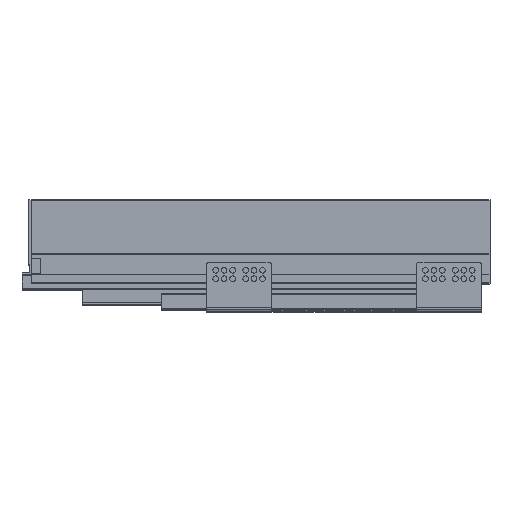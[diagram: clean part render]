
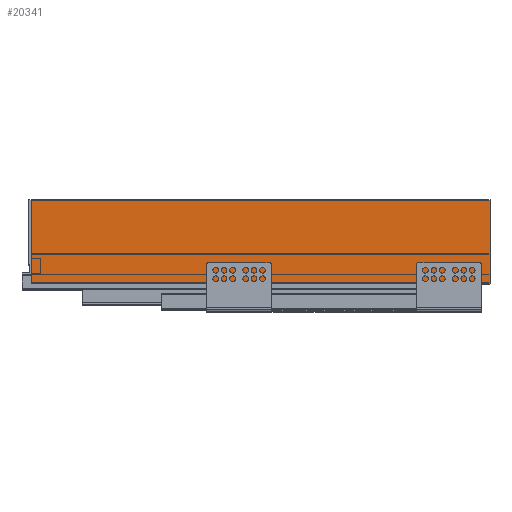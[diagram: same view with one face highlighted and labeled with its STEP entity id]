
A CAD part, top view. The second image highlights one B-rep face of the part: STEP entity #20341.
In plain terms, the highlighted planar face has unit normal (0, 0, 1).
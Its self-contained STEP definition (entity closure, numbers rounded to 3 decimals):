
#499=PLANE('',#21558);
#1352=FACE_OUTER_BOUND('',#2469,.T.);
#2469=EDGE_LOOP('',(#14259,#14260,#14261,#14262));
#3979=LINE('',#29291,#6308);
#3981=LINE('',#29295,#6310);
#3982=LINE('',#29297,#6311);
#3983=LINE('',#29298,#6312);
#6308=VECTOR('',#23625,10.);
#6310=VECTOR('',#23629,10.);
#6311=VECTOR('',#23630,10.);
#6312=VECTOR('',#23631,10.);
#9106=VERTEX_POINT('',#29288);
#9107=VERTEX_POINT('',#29290);
#9108=VERTEX_POINT('',#29294);
#9109=VERTEX_POINT('',#29296);
#11147=EDGE_CURVE('',#9106,#9107,#3979,.T.);
#11149=EDGE_CURVE('',#9106,#9108,#3981,.T.);
#11150=EDGE_CURVE('',#9108,#9109,#3982,.T.);
#11151=EDGE_CURVE('',#9109,#9107,#3983,.T.);
#14259=ORIENTED_EDGE('',*,*,#11149,.T.);
#14260=ORIENTED_EDGE('',*,*,#11150,.T.);
#14261=ORIENTED_EDGE('',*,*,#11151,.T.);
#14262=ORIENTED_EDGE('',*,*,#11147,.F.);
#20341=ADVANCED_FACE('',(#1352),#499,.F.);
#21558=AXIS2_PLACEMENT_3D('',#29293,#23627,#23628);
#23625=DIRECTION('',(1.,0.,0.));
#23627=DIRECTION('center_axis',(0.,0.,-1.));
#23628=DIRECTION('ref_axis',(0.,1.,0.));
#23629=DIRECTION('',(0.,-1.,0.));
#23630=DIRECTION('',(1.,0.,0.));
#23631=DIRECTION('',(0.,1.,0.));
#29288=CARTESIAN_POINT('',(0.,90.,535.));
#29290=CARTESIAN_POINT('',(490.,90.,535.));
#29291=CARTESIAN_POINT('',(0.,90.,535.));
#29293=CARTESIAN_POINT('Origin',(0.,0.,535.));
#29294=CARTESIAN_POINT('',(0.,0.,535.));
#29295=CARTESIAN_POINT('',(0.,90.,535.));
#29296=CARTESIAN_POINT('',(490.,0.,535.));
#29297=CARTESIAN_POINT('',(0.,0.,535.));
#29298=CARTESIAN_POINT('',(490.,90.,535.));
